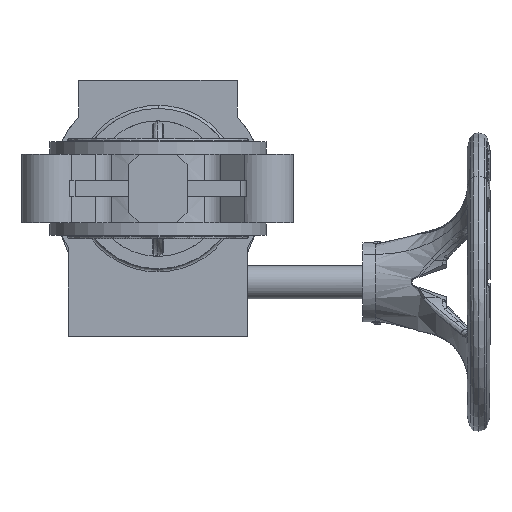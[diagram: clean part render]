
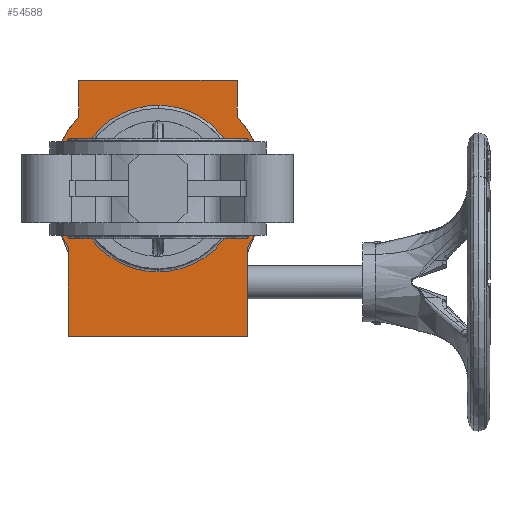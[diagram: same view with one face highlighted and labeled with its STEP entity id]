
A CAD part, front view. The second image highlights one B-rep face of the part: STEP entity #54588.
In plain terms, the highlighted planar face has unit normal (0, -1, 0).
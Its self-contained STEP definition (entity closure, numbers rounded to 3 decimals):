
#26 = EDGE_CURVE ( 'NONE', #15186, #16821, #66432, .T. ) ;
#661 = VERTEX_POINT ( 'NONE', #41195 ) ;
#2305 = EDGE_CURVE ( 'NONE', #46592, #50069, #57281, .T. ) ;
#3731 = DIRECTION ( 'NONE',  ( 1., 0., 0. ) ) ;
#4677 = ORIENTED_EDGE ( 'NONE', *, *, #45636, .F. ) ;
#5636 = CARTESIAN_POINT ( 'NONE',  ( 0., 160., 40. ) ) ;
#5967 = PLANE ( 'NONE',  #39905 ) ;
#7103 = VECTOR ( 'NONE', #3731, 1000. ) ;
#7442 = CARTESIAN_POINT ( 'NONE',  ( 43., 160., 0. ) ) ;
#7881 = VECTOR ( 'NONE', #26599, 1000. ) ;
#7996 = EDGE_CURVE ( 'NONE', #10718, #59044, #29792, .T. ) ;
#9038 = CARTESIAN_POINT ( 'NONE',  ( -38., 160., 34.76 ) ) ;
#10718 = VERTEX_POINT ( 'NONE', #54783 ) ;
#11373 = VERTEX_POINT ( 'NONE', #35014 ) ;
#11544 = DIRECTION ( 'NONE',  ( 0., 0., 1. ) ) ;
#12319 = VERTEX_POINT ( 'NONE', #68074 ) ;
#12532 = EDGE_CURVE ( 'NONE', #24626, #46592, #78057, .T. ) ;
#15007 = CARTESIAN_POINT ( 'NONE',  ( -0.383, 160., -39.998 ) ) ;
#15186 = VERTEX_POINT ( 'NONE', #9038 ) ;
#15593 = DIRECTION ( 'NONE',  ( 0., 0., 1. ) ) ;
#16661 = LINE ( 'NONE', #71564, #69050 ) ;
#16809 = DIRECTION ( 'NONE',  ( 0., 0., -1. ) ) ;
#16821 = VERTEX_POINT ( 'NONE', #53480 ) ;
#19693 = CARTESIAN_POINT ( 'NONE',  ( 0.383, 160., 39.998 ) ) ;
#23081 = CARTESIAN_POINT ( 'NONE',  ( 0., 160., -40. ) ) ;
#24626 = VERTEX_POINT ( 'NONE', #93431 ) ;
#24825 = VERTEX_POINT ( 'NONE', #41482 ) ;
#25862 = AXIS2_PLACEMENT_3D ( 'NONE', #30503, #70696, #16809 ) ;
#26599 = DIRECTION ( 'NONE',  ( -1., 0., 0. ) ) ;
#26909 =( BOUNDED_CURVE ( )  B_SPLINE_CURVE ( 3, ( #51047, #82087, #43404, #74436 ),
 .UNSPECIFIED., .F., .F. ) 
 B_SPLINE_CURVE_WITH_KNOTS ( ( 4, 4 ),
 ( 0., 0.997 ),
 .UNSPECIFIED. ) 
 CURVE ( )  GEOMETRIC_REPRESENTATION_ITEM ( )  RATIONAL_B_SPLINE_CURVE ( ( 1., 0.337, 0.337, 1. ) ) 
 REPRESENTATION_ITEM ( '' )  );
#27264 = CARTESIAN_POINT ( 'NONE',  ( -38., 160., 0. ) ) ;
#29792 = LINE ( 'NONE', #84769, #95846 ) ;
#30469 = CARTESIAN_POINT ( 'NONE',  ( -79.24, 160., 40. ) ) ;
#30503 = CARTESIAN_POINT ( 'NONE',  ( 0., 160., 0. ) ) ;
#31197 = CARTESIAN_POINT ( 'NONE',  ( -0.128, 160., -40. ) ) ;
#31698 = CARTESIAN_POINT ( 'NONE',  ( 0., 160., 40. ) ) ;
#31850 = DIRECTION ( 'NONE',  ( 0., 0., -1. ) ) ;
#32043 = EDGE_CURVE ( 'NONE', #81901, #661, #16661, .T. ) ;
#33012 = EDGE_LOOP ( 'NONE', ( #50536, #88660, #38980, #92068, #59997, #61754, #87896, #60504 ) ) ;
#35014 = CARTESIAN_POINT ( 'NONE',  ( 0., 160., -40. ) ) ;
#35451 = EDGE_CURVE ( 'NONE', #661, #12319, #95594, .T. ) ;
#37938 = DIRECTION ( 'NONE',  ( 0., 0., 1. ) ) ;
#38120 = EDGE_CURVE ( 'NONE', #24825, #10718, #96354, .T. ) ;
#38351 = DIRECTION ( 'NONE',  ( 0., 1., 0. ) ) ;
#38980 = ORIENTED_EDGE ( 'NONE', *, *, #51177, .F. ) ;
#39905 = AXIS2_PLACEMENT_3D ( 'NONE', #45655, #68513, #15593 ) ;
#40274 = AXIS2_PLACEMENT_3D ( 'NONE', #93820, #38351, #79044 ) ;
#41189 = ORIENTED_EDGE ( 'NONE', *, *, #12532, .F. ) ;
#41195 = CARTESIAN_POINT ( 'NONE',  ( 38., 160., 34.76 ) ) ;
#41482 = CARTESIAN_POINT ( 'NONE',  ( 43., 160., -71. ) ) ;
#42079 = CARTESIAN_POINT ( 'NONE',  ( 0., 160., 40. ) ) ;
#43404 = CARTESIAN_POINT ( 'NONE',  ( 79.619, 160., 39.239 ) ) ;
#45636 = EDGE_CURVE ( 'NONE', #50069, #11373, #48948, .T. ) ;
#45655 = CARTESIAN_POINT ( 'NONE',  ( 0., 160., 0. ) ) ;
#46140 = FACE_OUTER_BOUND ( 'NONE', #33012, .T. ) ;
#46592 = VERTEX_POINT ( 'NONE', #31698 ) ;
#48948 =( BOUNDED_CURVE ( )  B_SPLINE_CURVE ( 3, ( #15007, #92291, #31197, #23081 ),
 .UNSPECIFIED., .F., .F. ) 
 B_SPLINE_CURVE_WITH_KNOTS ( ( 4, 4 ),
 ( 0.997, 1. ),
 .UNSPECIFIED. ) 
 CURVE ( )  GEOMETRIC_REPRESENTATION_ITEM ( )  RATIONAL_B_SPLINE_CURVE ( ( 1., 1., 1., 1. ) ) 
 REPRESENTATION_ITEM ( '' )  );
#49964 = CARTESIAN_POINT ( 'NONE',  ( 0., 160., 52. ) ) ;
#50069 = VERTEX_POINT ( 'NONE', #98377 ) ;
#50536 = ORIENTED_EDGE ( 'NONE', *, *, #35451, .F. ) ;
#50991 = VECTOR ( 'NONE', #76110, 1000. ) ;
#51047 = CARTESIAN_POINT ( 'NONE',  ( 0., 160., -40. ) ) ;
#51177 = EDGE_CURVE ( 'NONE', #16821, #81901, #71890, .T. ) ;
#52991 = EDGE_CURVE ( 'NONE', #12319, #24825, #92388, .T. ) ;
#53480 = CARTESIAN_POINT ( 'NONE',  ( -38., 160., 52. ) ) ;
#53754 = ORIENTED_EDGE ( 'NONE', *, *, #2305, .F. ) ;
#53920 = CARTESIAN_POINT ( 'NONE',  ( -79.619, 160., -39.239 ) ) ;
#54447 = CARTESIAN_POINT ( 'NONE',  ( -43., 160., -28.342 ) ) ;
#54588 = ADVANCED_FACE ( 'NONE', ( #84800, #46140 ), #5967, .F. ) ;
#54783 = CARTESIAN_POINT ( 'NONE',  ( -43., 160., -71. ) ) ;
#57281 =( BOUNDED_CURVE ( )  B_SPLINE_CURVE ( 3, ( #5636, #30469, #53920, #84946 ),
 .UNSPECIFIED., .F., .T. ) 
 B_SPLINE_CURVE_WITH_KNOTS ( ( 4, 4 ),
 ( 0., 0.997 ),
 .UNSPECIFIED. ) 
 CURVE ( )  GEOMETRIC_REPRESENTATION_ITEM ( )  RATIONAL_B_SPLINE_CURVE ( ( 1., 0.337, 0.337, 1. ) ) 
 REPRESENTATION_ITEM ( '' )  );
#59044 = VERTEX_POINT ( 'NONE', #54447 ) ;
#59997 = ORIENTED_EDGE ( 'NONE', *, *, #97437, .F. ) ;
#60504 = ORIENTED_EDGE ( 'NONE', *, *, #52991, .F. ) ;
#61754 = ORIENTED_EDGE ( 'NONE', *, *, #7996, .F. ) ;
#63687 = VECTOR ( 'NONE', #11544, 1000. ) ;
#66432 = LINE ( 'NONE', #27264, #63687 ) ;
#66444 = CARTESIAN_POINT ( 'NONE',  ( 0.256, 160., 39.999 ) ) ;
#68074 = CARTESIAN_POINT ( 'NONE',  ( 43., 160., -28.342 ) ) ;
#68513 = DIRECTION ( 'NONE',  ( 0., 1., 0. ) ) ;
#69050 = VECTOR ( 'NONE', #31850, 1000. ) ;
#69246 = EDGE_CURVE ( 'NONE', #11373, #24626, #26909, .T. ) ;
#70696 = DIRECTION ( 'NONE',  ( 0., 1., 0. ) ) ;
#71564 = CARTESIAN_POINT ( 'NONE',  ( 38., 160., 0. ) ) ;
#71890 = LINE ( 'NONE', #49964, #7103 ) ;
#72312 = CARTESIAN_POINT ( 'NONE',  ( 38., 160., 52. ) ) ;
#74412 = CARTESIAN_POINT ( 'NONE',  ( 0., 160., -71. ) ) ;
#74436 = CARTESIAN_POINT ( 'NONE',  ( 0.383, 160., 39.998 ) ) ;
#76110 = DIRECTION ( 'NONE',  ( 0., 0., -1. ) ) ;
#76750 = EDGE_LOOP ( 'NONE', ( #53754, #41189, #85170, #4677 ) ) ;
#78057 =( BOUNDED_CURVE ( )  B_SPLINE_CURVE ( 3, ( #19693, #66444, #89895, #42079 ),
 .UNSPECIFIED., .F., .F. ) 
 B_SPLINE_CURVE_WITH_KNOTS ( ( 4, 4 ),
 ( 0.997, 1. ),
 .UNSPECIFIED. ) 
 CURVE ( )  GEOMETRIC_REPRESENTATION_ITEM ( )  RATIONAL_B_SPLINE_CURVE ( ( 1., 1., 1., 1. ) ) 
 REPRESENTATION_ITEM ( '' )  );
#79044 = DIRECTION ( 'NONE',  ( 0., 0., 1. ) ) ;
#81901 = VERTEX_POINT ( 'NONE', #72312 ) ;
#82087 = CARTESIAN_POINT ( 'NONE',  ( 79.24, 160., -40. ) ) ;
#84769 = CARTESIAN_POINT ( 'NONE',  ( -43., 160., 0. ) ) ;
#84800 = FACE_BOUND ( 'NONE', #76750, .T. ) ;
#84946 = CARTESIAN_POINT ( 'NONE',  ( -0.383, 160., -39.998 ) ) ;
#85170 = ORIENTED_EDGE ( 'NONE', *, *, #69246, .F. ) ;
#87896 = ORIENTED_EDGE ( 'NONE', *, *, #38120, .F. ) ;
#88660 = ORIENTED_EDGE ( 'NONE', *, *, #32043, .F. ) ;
#89895 = CARTESIAN_POINT ( 'NONE',  ( 0.128, 160., 40. ) ) ;
#92068 = ORIENTED_EDGE ( 'NONE', *, *, #26, .F. ) ;
#92291 = CARTESIAN_POINT ( 'NONE',  ( -0.256, 160., -39.999 ) ) ;
#92388 = LINE ( 'NONE', #7442, #50991 ) ;
#93431 = CARTESIAN_POINT ( 'NONE',  ( 0.383, 160., 39.998 ) ) ;
#93820 = CARTESIAN_POINT ( 'NONE',  ( 0., 160., 0. ) ) ;
#95594 = CIRCLE ( 'NONE', #40274, 51.5 ) ;
#95846 = VECTOR ( 'NONE', #37938, 1000. ) ;
#96354 = LINE ( 'NONE', #74412, #7881 ) ;
#97437 = EDGE_CURVE ( 'NONE', #59044, #15186, #100598, .T. ) ;
#98377 = CARTESIAN_POINT ( 'NONE',  ( -0.383, 160., -39.998 ) ) ;
#100598 = CIRCLE ( 'NONE', #25862, 51.5 ) ;
